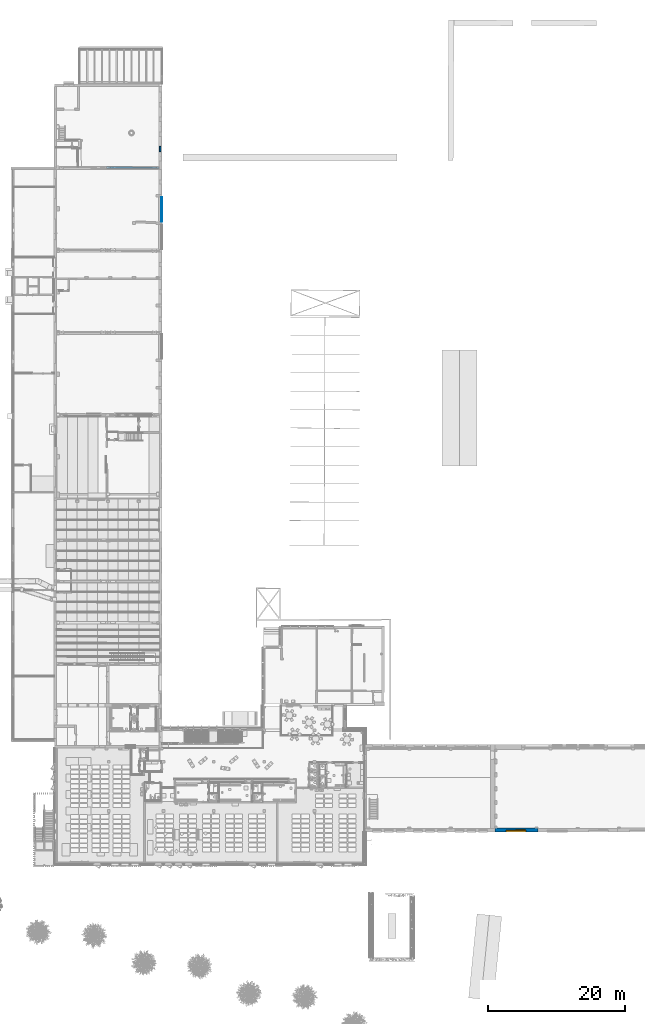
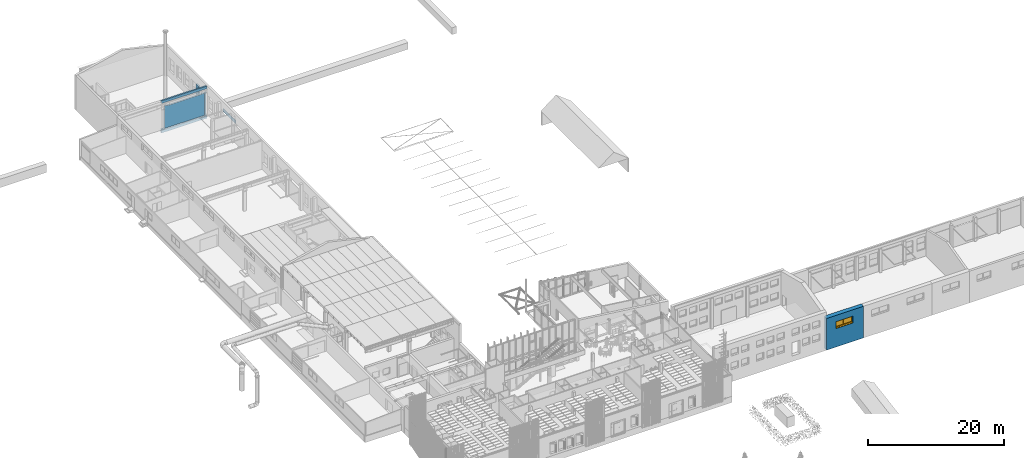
# One storey, part 155 of 301: 4 walls, 1 window, 2 openings.
"""IFC2X3 building model written with IfcOpenShell, lengths in millimetres."""

from ifc_helpers import new_model, entity, si_unit, converted_unit, derived_unit, money_unit, direction, frame, origin_with_axes, place, context, subcontext, project, spatial, open_shell, faceted_brep, surface_model, material, type_object, element, fill, save


model = new_model("IFC2X3")

# Units and contexts
model_context = context("Model", 3, precision=0.01, world=origin_with_axes(), true_north=direction((0.0, 1.0)))
body_context = subcontext(model_context, "Body", "Model", "MODEL_VIEW")
ifc_project = project(units=[si_unit("LENGTHUNIT", "METRE", prefix="MILLI"), si_unit("AREAUNIT", "SQUARE_METRE"), si_unit("VOLUMEUNIT", "CUBIC_METRE"), converted_unit("PLANEANGLEUNIT", "DEGREE", entity("IfcPlaneAngleMeasure", 0.0174532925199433), si_unit("PLANEANGLEUNIT", "RADIAN"), dimensions=[0, 0, 0, 0, 0, 0, 0]), money_unit("EUR"), converted_unit("TIMEUNIT", "Year", entity("IfcTimeMeasure", 31557600.0), si_unit("TIMEUNIT", "SECOND"), dimensions=[0, 0, 1, 0, 0, 0, 0]), si_unit("MASSUNIT", "GRAM", prefix="KILO"), si_unit("THERMODYNAMICTEMPERATUREUNIT", "DEGREE_CELSIUS"), si_unit("LUMINOUSINTENSITYUNIT", "LUMEN"), si_unit("ENERGYUNIT", "JOULE", prefix="MEGA"), derived_unit("THERMALCONDUCTANCEUNIT", [(si_unit("POWERUNIT", "WATT"), 1), (si_unit("LENGTHUNIT", "METRE"), -1), (si_unit("THERMODYNAMICTEMPERATUREUNIT", "KELVIN"), -1)]), derived_unit("SPECIFICHEATCAPACITYUNIT", [(si_unit("ENERGYUNIT", "JOULE"), 1), (si_unit("MASSUNIT", "GRAM", prefix="KILO"), -1), (si_unit("THERMODYNAMICTEMPERATUREUNIT", "KELVIN"), -1)]), derived_unit("MASSDENSITYUNIT", [(si_unit("MASSUNIT", "GRAM", prefix="KILO"), 1), (si_unit("VOLUMEUNIT", "CUBIC_METRE"), -1)])], contexts=[model_context])

# Site, building, storey
site_placement = place(None, frame((0.0, 0.0, 8650.0), z_axis=(0.0, 0.0, 1.0), x_axis=(1.0, 0.0, 0.0)))
site = spatial("IfcSite", under=ifc_project, at=site_placement, Name="43301:001:0844", CompositionType="ELEMENT")
building_placement = place(site_placement, origin_with_axes())
building = spatial("IfcBuilding", under=site, at=building_placement, Name="Kuressaare Ametikooli tuulikute mehaanikute õppekorpus", CompositionType="ELEMENT")
storey_placement = place(building_placement, origin_with_axes())
storey = spatial("IfcBuildingStorey", under=building, at=storey_placement, Name="1.korrus", CompositionType="ELEMENT", Elevation=0.0)

# Wall, opening
ifc_material = material(Name="GENEERILINE - KONSTRUKTRIOON")
wall_type_1 = type_object("IfcWallType", Name="GENEERILINE - KONSTRUKTRIOON 250", PredefinedType="NOTDEFINED")
wall_1_placement = place(storey_placement, frame((103647.5122070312, 110633.437432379, -1000.0), z_axis=(0.0, 0.0, 1.0), x_axis=(-0.9999943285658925, 0.003367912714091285, 0.0)))
wall_1 = element("IfcWall", 1, at=wall_1_placement, inside=storey, type_object=wall_type_1, material=ifc_material, Name="SS-XX", context=body_context, shape_type="Brep", body=[
    faceted_brep([(7629.818322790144, 11.4630541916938, 669.9999999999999), (7629.014946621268, 250.0, 669.9999999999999), (7629.014946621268, 250.0, 4202.979557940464), (7629.817179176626, 11.80261377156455, 4202.979557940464), (7629.81838085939, 250.0, 669.9974969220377), (8129.859800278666, 249.9999999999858, 669.9486296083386), (419.1603990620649, 250.0, 669.9486296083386), (419.1603990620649, 250.0, 669.9999999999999), (879.163007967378, 250.0, 669.9999999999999), (879.163007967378, 250.0, 4658.130658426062), (419.1603990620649, 250.0, 4658.130658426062), (419.1603990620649, 250.0, 4667.32564039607), (879.8028675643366, 249.9999999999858, 4658.128196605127), (1410.967646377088, 249.9999999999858, 4599.997501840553), (6775.772716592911, 250.0, 4599.997501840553), (7541.703284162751, 250.0, 4720.174326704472), (7579.014663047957, 250.0, 4720.0), (7579.014663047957, 250.0, 4305.0), (7579.818625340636, 11.65090695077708, 4304.997513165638), (7629.818380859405, 0.0, 669.9974969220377), (7629.818380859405, 0.0, 4202.977106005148), (8129.859800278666, 0.0, 669.9486296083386), (420.0023820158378, 0.0, 669.9486296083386), (419.999380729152, 0.8911364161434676, 669.9999999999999), (420.0023820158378, 0.0, 4667.308828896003), (419.999380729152, 0.8911364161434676, 4658.130658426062), (879.9967719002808, 2.440376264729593, 669.9999999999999), (879.6795703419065, 96.6232682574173, 4658.130658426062), (879.9967719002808, 2.440376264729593, 4658.106975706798), (879.8028675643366, 60.01408814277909, 4658.128196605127), (879.6795703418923, 2.439307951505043, 4658.130658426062), (879.8028675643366, 0.0, 4658.128196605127), (879.8028675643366, 2.439723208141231, 4658.128196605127), (1410.967646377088, 0.0, 4599.997501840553), (6775.772716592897, 0.0, 4599.997501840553), (7541.703284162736, 0.0, 4720.174326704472), (7579.818625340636, 0.0, 4719.997473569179), (7579.81860636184, 11.29465855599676, 4720.0), (7579.818625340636, 0.0, 4304.997513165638)], [[[0, 1, 2, 3]], [[0, 4, 1]], [[1, 4, 5, 6, 7, 8, 9, 10, 11, 12, 13, 14, 15, 16, 17, 2]], [[3, 2, 17, 18]], [[19, 0, 3, 20]], [[21, 5, 4, 0, 19]], [[6, 5, 21, 22]], [[23, 7, 6, 22, 24, 11, 10, 25]], [[23, 26, 8, 7]], [[27, 9, 8, 26, 28, 29]], [[10, 9, 27, 30, 25]], [[27, 29, 12, 11, 24, 31, 32, 30]], [[33, 13, 12, 29, 28, 32, 31]], [[34, 14, 13, 33]], [[35, 15, 14, 34]], [[36, 37, 16, 15, 35]], [[37, 18, 17, 16]], [[20, 3, 18, 38]], [[22, 21, 19, 20, 38, 36, 35, 34, 33, 31, 24]], [[30, 32, 28, 26, 23, 25]], [[36, 38, 18, 37]]]),
    faceted_brep([(8129.859800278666, 0.0, 5299.997569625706), (8129.85980027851, 0.0, 5760.0), (420.0023820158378, 0.0, 5760.0), (420.0023820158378, 0.0, 5299.997454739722), (8129.859800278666, 249.9999999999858, 5299.997569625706), (8129.85980027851, 249.9999999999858, 5760.0), (419.1603990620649, 250.0, 5760.0), (419.1603990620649, 250.0, 5299.997454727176)], [[[0, 1, 2, 3]], [[4, 5, 1, 0]], [[5, 6, 2, 1]], [[3, 2, 6, 7]], [[7, 4, 0, 3]], [[7, 6, 5, 4]]]),
    faceted_brep([(8129.859800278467, 0.0, 0.0), (8129.859800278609, 0.0, 469.9486296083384), (420.0023820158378, 0.0, 469.9486296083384), (420.0023820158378, 0.0, 0.0), (8129.859800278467, 249.9999999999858, 0.0), (8129.859800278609, 249.9999999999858, 469.9486296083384), (419.1603990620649, 250.0, 469.9486296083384), (419.1603990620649, 250.0, 0.0)], [[[0, 1, 2, 3]], [[4, 5, 1, 0]], [[5, 6, 2, 1]], [[3, 2, 6, 7]], [[0, 3, 7, 4]], [[7, 6, 5, 4]]]),
])
opening_1_placement = place(wall_1_placement, frame((103274.3206164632, 110981.8857562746, 1000.0), z_axis=(0.0, 0.0, 1.0), x_axis=(-0.9999943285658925, -0.003367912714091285, 0.0)))
element("IfcOpeningElement", 2, at=opening_1_placement, cuts=wall_1, Name="ava", context=body_context, shape_type="Brep", body=[
    faceted_brep([(103326.8359965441, 110938.1973308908, 3669.271573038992), (103326.8329714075, 110938.1973308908, 4299.997453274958), (103324.0303883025, 110106.059609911, 4299.997453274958), (103324.033413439, 110106.059609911, 3669.271573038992), (102768.7307602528, 110938.1973308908, 3658.128196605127), (102237.5629689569, 110938.1973308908, 3599.997501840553), (96872.72747243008, 110938.1973308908, 3599.997501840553), (96106.79256091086, 110938.1973308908, 3720.174326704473), (96068.67700356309, 110938.1973308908, 3719.997473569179), (96068.67700356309, 110938.1973308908, 3304.997513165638), (96018.67696447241, 110938.1973308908, 3202.977106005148), (96018.67696447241, 110938.1973308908, -330.0025030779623), (95518.6327090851, 110938.1973308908, -330.0513703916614), (95518.6327090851, 110938.1973308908, 4299.997569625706), (95515.83012598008, 110106.059609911, 4299.997569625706), (95515.83012598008, 110106.059609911, -330.0513703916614), (96015.87438136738, 110106.059609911, -330.0025030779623), (96015.87438136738, 110106.059609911, 3202.977106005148), (96065.87442045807, 110106.059609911, 3304.997513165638), (96065.87442045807, 110106.059609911, 3719.997473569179), (96103.98997780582, 110106.059609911, 3720.174326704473), (96869.92488932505, 110106.059609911, 3599.997501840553), (102234.7603858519, 110106.059609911, 3599.997501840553), (102765.9281771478, 110106.059609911, 3658.128196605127)], [[[0, 1, 2, 3]], [[0, 4, 5, 6, 7, 8, 9, 10, 11, 12, 13, 1]], [[1, 13, 14, 2]], [[3, 2, 14, 15, 16, 17, 18, 19, 20, 21, 22, 23]], [[4, 0, 3, 23]], [[5, 4, 23, 22]], [[6, 5, 22, 21]], [[7, 6, 21, 20]], [[8, 7, 20, 19]], [[9, 8, 19, 18]], [[10, 9, 18, 17]], [[11, 10, 17, 16]], [[12, 11, 16, 15]], [[13, 12, 15, 14]]]),
])

# Wall, opening, window
wall_type_2 = type_object("IfcWallType", Name="GENEERILINE - KONSTRUKTRIOON 560", PredefinedType="NOTDEFINED")
wall_2_placement = place(storey_placement, frame((158530.5799392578, 13517.65771690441, -1000.0), z_axis=(0.0, 0.0, 1.0), x_axis=(-1.0, 0.0, 0.0)))
wall_2 = element("IfcWall", 3, at=wall_2_placement, inside=storey, type_object=wall_type_2, material=ifc_material, Name="VS-XX", context=body_context, shape_type="Brep", body=[
    faceted_brep([(6276.959638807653, -559.9999999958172, 5806.35760022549), (0.0, -559.9999999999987, 5806.357600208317), (0.0, -560.0000000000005, 1000.0), (0.1157668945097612, -560.0000000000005, 1000.0), (0.1157668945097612, -560.0000000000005, 5300.0), (420.1157683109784, -560.0000000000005, 5300.0), (420.1157683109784, -560.0000000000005, 1000.0), (6276.959638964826, -559.9999999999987, 1000.0), (1763.471506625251, -559.9999999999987, 4540.0), (4683.47150662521, -559.9999999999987, 4540.0), (4683.47150662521, -559.9999999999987, 3420.0), (1763.471506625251, -559.9999999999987, 3420.0), (0.0, 0.0, 5670.001135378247), (6276.959638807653, 0.0, 5670.001135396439), (0.0, 0.0, 0.0), (0.0, -560.0000000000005, 0.0), (0.0, -560.0000000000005, 799.9999999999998), (0.0, -519.9999999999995, 799.9999999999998), (0.0, -519.9999999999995, 1000.0), (0.1157668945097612, -559.4921511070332, 1000.0), (0.1157668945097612, -559.4921511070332, 5300.0), (420.1157683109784, -559.4921511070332, 5300.0), (420.1157683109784, -559.4921511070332, 1000.0), (420.1157683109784, -559.5261326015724, 1000.0), (6276.959638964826, -559.9999999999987, 799.9999999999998), (6276.959638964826, -560.0000000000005, 0.0), (6276.959638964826, 0.0, 0.0), (1763.471506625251, -230.0000000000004, 4540.0), (4683.47150662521, -230.0000000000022, 4540.0), (4683.47150662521, -230.0000000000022, 3420.0), (1763.471506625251, -230.0000000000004, 3420.0), (1763.471506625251, 0.0, 3370.0), (4683.47150662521, 0.0, 3370.0), (4683.47150662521, 0.0, 4540.0), (1763.471506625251, 0.0, 4540.0), (0.1157668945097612, -559.4921511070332, 799.9999999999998), (4683.47150662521, -230.0000000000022, 3370.0), (1763.471506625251, -230.0000000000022, 3370.0)], [[[0, 1, 2, 3, 4, 5, 6, 7], [8, 9, 10, 11]], [[12, 1, 0, 13]], [[1, 12, 14, 15, 16, 17, 18, 2]], [[18, 19, 3, 2]], [[20, 4, 3, 19]], [[21, 5, 4, 20]], [[5, 21, 22, 23, 6]], [[6, 23, 7]], [[13, 0, 7, 24, 25, 26]], [[27, 28, 9, 8]], [[28, 29, 10, 9]], [[29, 30, 11, 10]], [[30, 27, 8, 11]], [[12, 13, 26, 14], [31, 32, 33, 34]], [[25, 15, 14, 26]], [[15, 25, 24, 16]], [[24, 35, 17, 16]], [[18, 17, 35, 19]], [[19, 22, 21, 20]], [[19, 23, 22]], [[19, 35, 24, 7, 23]], [[34, 33, 28, 27]], [[32, 36, 29, 28, 33]], [[36, 37, 30, 29]], [[31, 34, 27, 30, 37]], [[36, 32, 31, 37]]]),
])
opening_2_placement = place(wall_2_placement, frame((3223.471506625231, 0.0, 3420.0), z_axis=(0.0, 0.0, 1.0), x_axis=(1.0, 0.0, 0.0)))
opening_2 = element("IfcOpeningElement", 4, at=opening_2_placement, cuts=wall_2, Name="VA-XX", context=body_context, shape_type="Brep", body=[
    faceted_brep([(-1459.99999999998, -230.0000000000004, 0.0), (-1459.99999999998, -230.0000000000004, 1120.0), (-1459.99999999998, 1.000000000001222, 1120.0), (-1459.99999999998, 0.9999999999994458, -49.99999999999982), (-1459.99999999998, -230.0000000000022, -49.99999999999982), (-1459.99999999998, -561.0, 0.0), (-1459.99999999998, -561.0, 1120.0), (1459.99999999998, -230.0000000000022, 1120.0), (1459.99999999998, 0.9999999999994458, 1120.0), (1459.99999999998, 0.9999999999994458, -49.99999999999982), (1459.99999999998, -230.0000000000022, -49.99999999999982), (1459.99999999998, -230.0000000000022, 0.0), (1459.99999999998, -561.0000000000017, 0.0), (1459.99999999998, -561.0000000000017, 1120.0)], [[[0, 1, 2, 3, 4]], [[1, 0, 5, 6]], [[1, 7, 8, 2]], [[8, 9, 3, 2]], [[10, 4, 3, 9]], [[11, 0, 4, 10]], [[0, 11, 12, 5]], [[6, 5, 12, 13]], [[7, 1, 6, 13]], [[7, 11, 10, 9, 8]], [[11, 7, 13, 12]]]),
])
window_style = type_object("IfcWindowStyle", Name="Double Window 27", ConstructionType="NOTDEFINED", OperationType="DOUBLE_PANEL_VERTICAL", ParameterTakesPrecedence=False, Sizeable=False)
window_placement = place(opening_2_placement, frame((1459.99999999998, 0.0, 0.0), z_axis=(0.0, 0.0, 1.0), x_axis=(-1.0, 0.0, 0.0)))
window = element("IfcWindow", 5, at=window_placement, inside=storey, type_object=window_style, Name="VA-XX", OverallHeight=1120.0, OverallWidth=2920.0, context=body_context, shape_type="SurfaceModel", body=[
    surface_model("IfcShellBasedSurfaceModel", [(0.0, 229.000000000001, -9.999999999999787), (0.0, -9.99999999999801, -51.73913043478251), (2919.999999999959, -9.999999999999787, -51.73913043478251), (2919.999999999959, 229.000000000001, -10.00000000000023), (0.0, -9.99999999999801, -86.73913043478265), (2919.999999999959, -9.999999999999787, -86.73913043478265), (2919.999999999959, 229.000000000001, 0.0), (0.0, 229.000000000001, 0.0), (0.0, -4.999999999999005, -81.73913043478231), (2919.999999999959, -4.999999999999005, -81.73913043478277)], [open_shell([[[0, 1, 2, 3]], [[4, 5, 2, 1]], [[0, 3, 6, 7]], [[8, 9, 5, 4]]])]),
    faceted_brep([(2894.999999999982, 315.0000000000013, 1070.0), (2894.999999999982, 290.0000000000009, 1070.0), (2869.999999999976, 290.0000000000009, 1070.0), (2869.999999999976, 230.0000000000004, 1070.0), (2919.999999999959, 230.0000000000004, 1070.0), (2919.999999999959, 315.0000000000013, 1070.0), (2894.999999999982, 315.0000000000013, 50.00000000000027), (2894.999999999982, 290.0000000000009, 49.99999999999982), (2869.999999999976, 290.0000000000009, 49.99999999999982), (2869.999999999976, 230.0000000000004, 49.99999999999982), (2919.999999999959, 230.0000000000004, 49.99999999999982), (2919.999999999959, 315.0000000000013, 50.00000000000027)], [[[0, 1, 2, 3, 4, 5]], [[1, 0, 6, 7]], [[8, 2, 1, 7]], [[2, 8, 9, 3]], [[4, 3, 9, 10]], [[5, 4, 10, 11]], [[6, 0, 5, 11]], [[7, 6, 11, 10, 9, 8]]]),
    faceted_brep([(1459.99999999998, 290.0000000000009, 1070.0), (1434.999999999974, 290.0000000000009, 1070.0), (1434.999999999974, 315.0000000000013, 1070.0), (1359.999999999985, 315.0000000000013, 1070.0), (1359.999999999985, 230.0000000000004, 1070.0), (1459.99999999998, 230.0000000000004, 1070.0), (1459.99999999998, 290.0000000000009, 49.99999999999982), (1434.999999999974, 290.0000000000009, 49.99999999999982), (1434.999999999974, 315.0000000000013, 50.00000000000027), (1359.999999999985, 315.0000000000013, 50.00000000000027), (1359.999999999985, 230.0000000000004, 49.99999999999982), (1459.99999999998, 230.0000000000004, 49.99999999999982)], [[[0, 1, 2, 3, 4, 5]], [[1, 0, 6, 7]], [[8, 2, 1, 7]], [[2, 8, 9, 3]], [[9, 10, 4, 3]], [[10, 11, 5, 4]], [[6, 0, 5, 11]], [[7, 6, 11, 10, 9, 8]]]),
    faceted_brep([(1459.99999999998, 290.0000000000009, 49.99999999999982), (1434.999999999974, 290.0000000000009, 49.99999999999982), (1434.999999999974, 315.0000000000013, 50.00000000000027), (1359.999999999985, 315.0000000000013, 50.00000000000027), (1359.999999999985, 230.0000000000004, 49.99999999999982), (1459.99999999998, 230.0000000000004, 49.99999999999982), (2869.999999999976, 290.0000000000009, 49.99999999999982), (2894.999999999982, 290.0000000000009, 49.99999999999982), (2894.999999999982, 290.0000000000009, 24.99999999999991), (1434.999999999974, 290.0000000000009, 24.99999999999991), (1434.999999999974, 315.0000000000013, 24.99999999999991), (2894.999999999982, 315.0000000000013, 24.99999999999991), (2894.999999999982, 315.0000000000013, 50.00000000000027), (2919.999999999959, 315.0000000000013, 50.00000000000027), (2919.999999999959, 315.0000000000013, 0.0), (0.0, 315.0000000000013, 0.0), (0.0, 315.0000000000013, 50.00000000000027), (49.99999999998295, 315.0000000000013, 50.00000000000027), (49.99999999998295, 230.0000000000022, 49.99999999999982), (2919.999999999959, 230.0000000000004, 49.99999999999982), (2869.999999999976, 230.0000000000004, 49.99999999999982), (0.0, 230.0000000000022, 49.99999999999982), (0.0, 230.0000000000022, 0.0), (2919.999999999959, 230.0000000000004, 0.0)], [[[0, 1, 2, 3, 4, 5]], [[1, 0, 6, 7, 8, 9]], [[10, 2, 1, 9]], [[11, 12, 13, 14, 15, 16, 17, 3, 2, 10]], [[17, 18, 4, 3]], [[19, 20, 5, 4, 18, 21, 22, 23]], [[6, 0, 5, 20]], [[7, 6, 20, 19, 13, 12]], [[7, 12, 11, 8]], [[11, 10, 9, 8]], [[13, 19, 23, 14]], [[14, 23, 22, 15]], [[15, 22, 21, 16]], [[16, 21, 18, 17]]]),
    faceted_brep([(2894.999999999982, 315.0000000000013, 1070.0), (2894.999999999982, 315.0000000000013, 1095.0), (1434.999999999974, 315.0000000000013, 1095.0), (1434.999999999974, 315.0000000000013, 1070.0), (1359.999999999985, 315.0000000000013, 1070.0), (49.99999999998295, 315.0000000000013, 1070.0), (0.0, 315.0000000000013, 1070.0), (0.0, 315.0000000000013, 1120.0), (2919.999999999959, 315.0000000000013, 1120.0), (2919.999999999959, 315.0000000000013, 1070.0), (2894.999999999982, 290.0000000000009, 1070.0), (2894.999999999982, 290.0000000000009, 1095.0), (1434.999999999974, 290.0000000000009, 1095.0), (1434.999999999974, 290.0000000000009, 1070.0), (1459.99999999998, 290.0000000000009, 1070.0), (1459.99999999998, 230.0000000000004, 1070.0), (1359.999999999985, 230.0000000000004, 1070.0), (49.99999999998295, 230.0000000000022, 1070.0), (0.0, 230.0000000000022, 1070.0), (0.0, 230.0000000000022, 1120.0), (2919.999999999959, 230.0000000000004, 1120.0), (2919.999999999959, 230.0000000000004, 1070.0), (2869.999999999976, 230.0000000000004, 1070.0), (2869.999999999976, 290.0000000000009, 1070.0)], [[[0, 1, 2, 3, 4, 5, 6, 7, 8, 9]], [[1, 0, 10, 11]], [[2, 1, 11, 12]], [[3, 2, 12, 13]], [[13, 14, 15, 16, 4, 3]], [[4, 16, 17, 5]], [[5, 17, 18, 6]], [[6, 18, 19, 7]], [[7, 19, 20, 8]], [[8, 20, 21, 9]], [[10, 0, 9, 21, 22, 23]], [[14, 13, 12, 11, 10, 23]], [[14, 23, 22, 15]], [[16, 15, 22, 21, 20, 19, 18, 17]]]),
    faceted_brep([(49.99999999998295, 230.0000000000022, 49.99999999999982), (0.0, 230.0000000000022, 49.99999999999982), (0.0, 315.0000000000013, 49.99999999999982), (49.99999999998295, 315.0000000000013, 49.99999999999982), (49.99999999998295, 230.0000000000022, 1070.0), (0.0, 230.0000000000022, 1070.0), (0.0, 315.0000000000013, 1070.0), (49.99999999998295, 315.0000000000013, 1070.0)], [[[0, 1, 2, 3]], [[0, 4, 5, 1]], [[1, 5, 6, 2]], [[3, 2, 6, 7]], [[4, 0, 3, 7]], [[5, 4, 7, 6]]]),
    faceted_brep([(2191.999999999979, 340.0000000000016, 1041.5), (2191.999999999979, 352.0000000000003, 1041.5), (2196.999999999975, 352.0000000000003, 1042.839745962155), (2196.999999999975, 340.0000000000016, 1042.839745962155), (2137.999999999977, 340.0000000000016, 1041.5), (2137.999999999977, 352.0000000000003, 1041.5), (2132.999999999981, 352.0000000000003, 1042.839745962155), (2129.339745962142, 352.0000000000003, 1046.5), (2127.999999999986, 352.0000000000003, 1051.5), (2127.999999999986, 352.0000000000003, 1063.5), (2129.339745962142, 352.0000000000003, 1068.5), (2132.999999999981, 352.0000000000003, 1072.160254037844), (2137.999999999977, 352.0000000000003, 1073.5), (2191.999999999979, 352.0000000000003, 1073.5), (2196.999999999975, 352.0000000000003, 1072.160254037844), (2200.660254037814, 352.0000000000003, 1068.5), (2201.99999999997, 352.0000000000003, 1063.5), (2201.99999999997, 352.0000000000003, 1051.5), (2200.660254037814, 352.0000000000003, 1046.5), (2200.660254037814, 340.0000000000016, 1046.5), (2201.99999999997, 340.0000000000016, 1051.5), (2201.99999999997, 340.0000000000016, 1063.5), (2200.660254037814, 340.0000000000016, 1068.5), (2196.999999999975, 340.0000000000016, 1072.160254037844), (2191.999999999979, 340.0000000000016, 1073.5), (2137.999999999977, 340.0000000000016, 1073.5), (2132.999999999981, 340.0000000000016, 1072.160254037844), (2129.339745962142, 340.0000000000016, 1068.5), (2127.999999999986, 340.0000000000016, 1063.5), (2127.999999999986, 340.0000000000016, 1051.5), (2129.339745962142, 340.0000000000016, 1046.5), (2132.999999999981, 340.0000000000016, 1042.839745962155)], [[[0, 1, 2, 3]], [[4, 5, 1, 0]], [[1, 5, 6, 7, 8, 9, 10, 11, 12, 13, 14, 15, 16, 17, 18, 2]], [[3, 2, 18, 19]], [[0, 3, 19, 20, 21, 22, 23, 24, 25, 26, 27, 28, 29, 30, 31, 4]], [[31, 6, 5, 4]], [[30, 7, 6, 31]], [[29, 8, 7, 30]], [[28, 9, 8, 29]], [[27, 10, 9, 28]], [[26, 11, 10, 27]], [[25, 12, 11, 26]], [[24, 13, 12, 25]], [[23, 14, 13, 24]], [[22, 15, 14, 23]], [[21, 16, 15, 22]], [[20, 17, 16, 21]], [[19, 18, 17, 20]]]),
    faceted_brep([(2178.499999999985, 352.0000000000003, 1057.5), (2178.499999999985, 376.0000000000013, 1057.5), (2176.691342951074, 376.0000000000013, 1064.25), (2176.691342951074, 352.0000000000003, 1064.25), (2176.691342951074, 352.0000000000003, 1050.75), (2176.691342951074, 376.0000000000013, 1050.75), (2171.749999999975, 376.0000000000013, 1045.80865704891), (2164.999999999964, 376.0000000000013, 1044.0), (2158.249999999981, 376.0000000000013, 1045.80865704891), (2153.308657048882, 376.0000000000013, 1050.75), (2151.49999999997, 376.0000000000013, 1057.5), (2153.308657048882, 376.0000000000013, 1064.25), (2158.249999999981, 376.0000000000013, 1069.19134295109), (2164.999999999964, 376.0000000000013, 1071.0), (2171.749999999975, 376.0000000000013, 1069.19134295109), (2171.749999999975, 352.0000000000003, 1069.19134295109), (2164.999999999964, 352.0000000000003, 1071.0), (2158.249999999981, 352.0000000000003, 1069.19134295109), (2153.308657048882, 352.0000000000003, 1064.25), (2151.49999999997, 352.0000000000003, 1057.5), (2153.308657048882, 352.0000000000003, 1050.75), (2158.249999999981, 352.0000000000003, 1045.80865704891), (2164.999999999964, 352.0000000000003, 1044.0), (2171.749999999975, 352.0000000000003, 1045.80865704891)], [[[0, 1, 2, 3]], [[4, 5, 1, 0]], [[1, 5, 6, 7, 8, 9, 10, 11, 12, 13, 14, 2]], [[3, 2, 14, 15]], [[0, 3, 15, 16, 17, 18, 19, 20, 21, 22, 23, 4]], [[23, 6, 5, 4]], [[22, 7, 6, 23]], [[21, 8, 7, 22]], [[20, 9, 8, 21]], [[19, 10, 9, 20]], [[18, 11, 10, 19]], [[17, 12, 11, 18]], [[16, 13, 12, 17]], [[15, 14, 13, 16]]]),
    faceted_brep([(2057.999999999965, 376.0000000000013, 1046.0), (2060.999999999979, 376.0000000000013, 1044.0), (2164.999999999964, 376.0000000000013, 1044.0), (2171.749999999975, 376.0000000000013, 1045.80865704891), (2176.691342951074, 376.0000000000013, 1050.75), (2178.499999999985, 376.0000000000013, 1057.5), (2176.691342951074, 376.0000000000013, 1064.25), (2171.749999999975, 376.0000000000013, 1069.19134295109), (2164.999999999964, 376.0000000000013, 1071.0), (2060.999999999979, 376.0000000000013, 1071.0), (2057.999999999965, 376.0000000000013, 1069.0), (2054.999999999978, 376.0000000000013, 1057.5), (2058.000000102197, 384.0000000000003, 1045.999999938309), (2060.999999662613, 384.0000000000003, 1043.999999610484), (2164.999999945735, 384.0000000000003, 1043.999999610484), (2171.749999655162, 384.0000000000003, 1045.808656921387), (2176.691342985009, 384.0000000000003, 1050.750000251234), (2178.500000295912, 384.0000000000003, 1057.499999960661), (2176.691342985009, 384.0000000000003, 1064.249999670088), (2171.749999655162, 384.0000000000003, 1069.191342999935), (2164.999999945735, 384.0000000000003, 1071.000000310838), (2060.999999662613, 384.0000000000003, 1071.000000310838), (2058.000000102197, 384.0000000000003, 1068.999999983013), (2054.999999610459, 384.0000000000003, 1057.499999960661), (2060.614519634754, 386.9999995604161, 1047.862537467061), (2061.908326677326, 386.9999995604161, 1046.999999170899), (2164.605042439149, 386.9999995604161, 1046.999999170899), (2170.197085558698, 386.9999995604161, 1048.498382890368), (2174.001617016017, 386.9999995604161, 1052.302914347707), (2175.394172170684, 386.9999995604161, 1057.499999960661), (2174.001617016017, 386.9999995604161, 1062.697085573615), (2170.197085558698, 386.9999995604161, 1066.501617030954), (2164.605042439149, 386.9999995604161, 1068.000000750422), (2061.908326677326, 386.9999995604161, 1068.000000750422), (2060.614519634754, 386.9999995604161, 1067.137462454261), (2058.100398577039, 386.9999995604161, 1057.499999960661)], [[[0, 1, 2, 3, 4, 5, 6, 7, 8, 9, 10, 11]], [[0, 12, 13, 1]], [[1, 13, 14, 2]], [[2, 14, 15, 3]], [[3, 15, 16, 4]], [[4, 16, 17, 5]], [[5, 17, 18, 6]], [[6, 18, 19, 7]], [[7, 19, 20, 8]], [[8, 20, 21, 9]], [[9, 21, 22, 10]], [[10, 22, 23, 11]], [[11, 23, 12, 0]], [[12, 24, 25, 13]], [[13, 25, 26, 14]], [[14, 26, 27, 15]], [[15, 27, 28, 16]], [[16, 28, 29, 17]], [[17, 29, 30, 18]], [[18, 30, 31, 19]], [[19, 31, 32, 20]], [[20, 32, 33, 21]], [[21, 33, 34, 22]], [[22, 34, 35, 23]], [[23, 35, 24, 12]], [[34, 33, 32, 31, 30, 29, 28, 27, 26, 25, 24, 35]]]),
    faceted_brep([(2819.999999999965, 290.0000000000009, 1020.0), (2894.999999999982, 290.0000000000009, 1020.0), (2894.999999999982, 340.0000000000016, 1020.0), (2819.999999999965, 340.0000000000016, 1020.0), (2819.999999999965, 290.0000000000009, 100.0000000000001), (2894.999999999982, 290.0000000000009, 100.0000000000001), (2894.999999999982, 340.0000000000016, 100.0000000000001), (2819.999999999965, 340.0000000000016, 100.0000000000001)], [[[0, 1, 2, 3]], [[0, 4, 5, 1]], [[1, 5, 6, 2]], [[3, 2, 6, 7]], [[4, 0, 3, 7]], [[5, 4, 7, 6]]]),
    faceted_brep([(1509.999999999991, 290.0000000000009, 100.0000000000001), (1434.999999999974, 290.0000000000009, 100.0000000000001), (1434.999999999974, 340.0000000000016, 100.0000000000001), (1509.999999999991, 340.0000000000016, 100.0000000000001), (1509.999999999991, 290.0000000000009, 1020.0), (1434.999999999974, 290.0000000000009, 1020.0), (1434.999999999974, 340.0000000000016, 1020.0), (1509.999999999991, 340.0000000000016, 1020.0)], [[[0, 1, 2, 3]], [[0, 4, 5, 1]], [[1, 5, 6, 2]], [[3, 2, 6, 7]], [[4, 0, 3, 7]], [[5, 4, 7, 6]]]),
    faceted_brep([(1434.999999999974, 290.0000000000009, 24.99999999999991), (1434.999999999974, 290.0000000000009, 100.0000000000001), (1434.999999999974, 340.0000000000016, 100.0000000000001), (1434.999999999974, 340.0000000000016, 24.99999999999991), (2894.999999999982, 290.0000000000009, 24.99999999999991), (2894.999999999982, 290.0000000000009, 100.0000000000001), (2819.999999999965, 290.0000000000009, 100.0000000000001), (1509.999999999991, 290.0000000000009, 100.0000000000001), (1509.999999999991, 340.0000000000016, 100.0000000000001), (2819.999999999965, 340.0000000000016, 100.0000000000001), (2894.999999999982, 340.0000000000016, 100.0000000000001), (2894.999999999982, 340.0000000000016, 24.99999999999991)], [[[0, 1, 2, 3]], [[0, 4, 5, 6, 7, 1]], [[1, 7, 8, 2]], [[3, 2, 8, 9, 10, 11]], [[4, 0, 3, 11]], [[5, 4, 11, 10]], [[6, 5, 10, 9]], [[7, 6, 9, 8]]]),
    faceted_brep([(2894.999999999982, 290.0000000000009, 1095.0), (2894.999999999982, 290.0000000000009, 1020.0), (2894.999999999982, 340.0000000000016, 1020.0), (2894.999999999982, 340.0000000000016, 1095.0), (1434.999999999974, 290.0000000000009, 1095.0), (1434.999999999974, 290.0000000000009, 1020.0), (1509.999999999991, 290.0000000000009, 1020.0), (2819.999999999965, 290.0000000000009, 1020.0), (2819.999999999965, 340.0000000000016, 1020.0), (1509.999999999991, 340.0000000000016, 1020.0), (1434.999999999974, 340.0000000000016, 1020.0), (1434.999999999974, 340.0000000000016, 1095.0)], [[[0, 1, 2, 3]], [[0, 4, 5, 6, 7, 1]], [[1, 7, 8, 2]], [[3, 2, 8, 9, 10, 11]], [[4, 0, 3, 11]], [[5, 4, 11, 10]], [[6, 5, 10, 9]], [[7, 6, 9, 8]]]),
    surface_model("IfcShellBasedSurfaceModel", [(2819.999999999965, 305.0000000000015, 100.0000000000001), (2819.999999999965, 305.0000000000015, 1020.0), (1509.999999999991, 305.0000000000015, 1020.0), (1509.999999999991, 305.0000000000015, 100.0000000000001)], [open_shell([[[0, 1, 2, 3]]])]),
    surface_model("IfcShellBasedSurfaceModel", [(2819.999999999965, 325.0000000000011, 100.0000000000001), (1509.999999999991, 325.0000000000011, 100.0000000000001), (1509.999999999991, 325.0000000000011, 1020.0), (2819.999999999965, 325.0000000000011, 1020.0)], [open_shell([[[0, 1, 2, 3]]])]),
    surface_model("IfcShellBasedSurfaceModel", [(1359.999999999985, 280.0000000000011, 49.99999999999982), (1359.999999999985, 280.0000000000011, 1070.0), (49.99999999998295, 280.0000000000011, 1070.0), (49.99999999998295, 280.0000000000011, 49.99999999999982)], [open_shell([[[0, 1, 2, 3]]])]),
    surface_model("IfcShellBasedSurfaceModel", [(1359.999999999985, 300.0000000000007, 49.99999999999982), (49.99999999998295, 300.0000000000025, 49.99999999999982), (49.99999999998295, 300.0000000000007, 1070.0), (1359.999999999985, 300.0000000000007, 1070.0)], [open_shell([[[0, 1, 2, 3]]])]),
])
fill(opening_2, window)

# Walls
wall_type_3 = type_object("IfcWallType", Name="GENEERILINE - KONSTRUKTRIOON 220", PredefinedType="NOTDEFINED")
wall_3_placement = place(storey_placement, frame((103472.517681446, 113622.0287880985, 815.0), z_axis=(0.0, 0.0, 1.0), x_axis=(-8.400579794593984e-06, -0.9999999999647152, 0.0)))
element("IfcWall", 6, at=wall_3_placement, inside=storey, type_object=wall_type_3, material=ifc_material, Name="VS-XX", context=body_context, shape_type="Brep", body=[
    faceted_brep([(0.0, -220.0000000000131, 2380.0), (760.6548867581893, -220.0000000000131, 2380.0), (760.6548867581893, 0.0, 2380.0), (0.0, 0.0, 2380.0), (0.0, -220.0000000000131, 0.0), (760.6548867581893, -220.0000000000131, 0.0), (760.6548867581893, 0.0, 0.0), (0.0, 0.0, 0.0)], [[[0, 1, 2, 3]], [[4, 5, 1, 0]], [[2, 1, 5, 6]], [[3, 2, 6, 7]], [[4, 0, 3, 7]], [[7, 6, 5, 4]]]),
])
wall_type_4 = type_object("IfcWallType", Name="GENEERILINE - KONSTRUKTRIOON 120", PredefinedType="NOTDEFINED")
wall_4_placement = place(storey_placement, frame((103647.5122070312, 106199.6179199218, 2640.0), z_axis=(0.0, 0.0, 1.0), x_axis=(6.00064728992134e-07, -0.99999999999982, 0.0)))
element("IfcWall", 7, at=wall_4_placement, inside=storey, type_object=wall_type_4, material=ifc_material, Name="VS-XX", context=body_context, shape_type="Brep", body=[
    faceted_brep([(0.0, -120.0000000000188, 520.0), (3560.000000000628, -120.0000000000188, 520.0), (3560.000000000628, 0.0, 520.0), (0.0, 0.0, 520.0), (0.0, -120.0000000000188, 0.0), (3560.000000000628, -120.0000000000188, 0.0), (3560.000000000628, 0.0, 0.0), (0.0, 0.0, 0.0)], [[[0, 1, 2, 3]], [[4, 5, 1, 0]], [[2, 1, 5, 6]], [[3, 2, 6, 7]], [[4, 0, 3, 7]], [[7, 6, 5, 4]]]),
])

save(model, "model.ifc")
